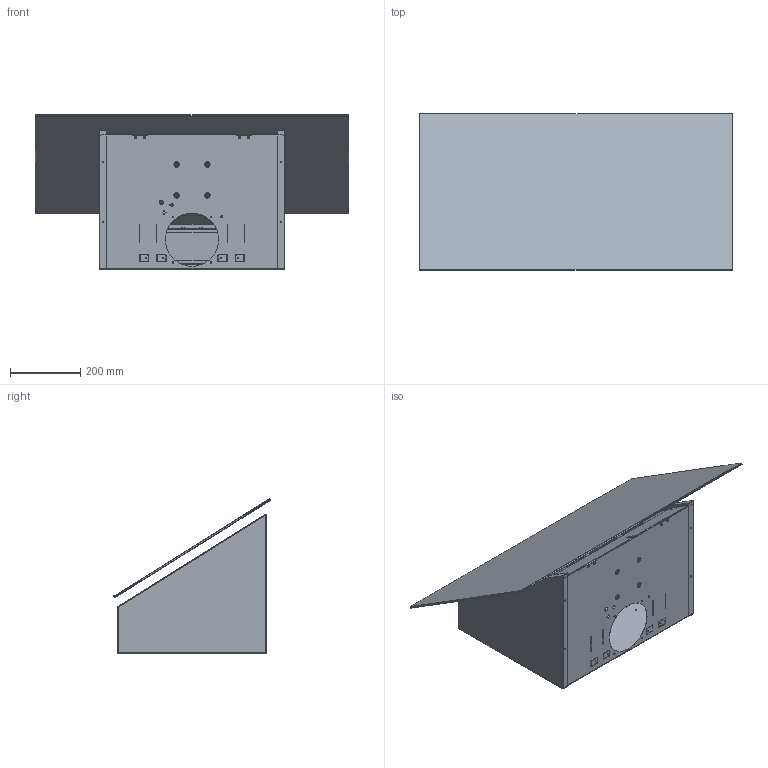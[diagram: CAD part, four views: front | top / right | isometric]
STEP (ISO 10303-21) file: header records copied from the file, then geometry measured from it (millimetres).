
FILE_DESCRIPTION (( 'STEP AP214' ), '1' );
FILE_NAME ('KV394N-3971486.STEP', '2025-10-15T13:48:17', ( '' ), ( '' ), 'SwSTEP 2.0', 'SolidWorks 2025', '' );
FILE_SCHEMA (( 'AUTOMOTIVE_DESIGN' ));
Length unit declared in the file: millimetre
Products named in the file (12): 2638374B-KV28N- TOP; 2638399A-KV28-GR.CARPENTERIA; 1720586 - VETRO - KV394N - 90 BLACK; 2638422A; KV394N-3971486; 2638376-S042955-KV28N- FIANCO_DX_SX - Supporto; 2638375-S042954-KV28N- BOTTOM; 2610232_filtro; 2638377-S042956-KV28N- FIANCO_SX_SX - Supporto; 1800039-S042962-Guidaluce Faretto Mini Velo; 1600021_Tirato; 1800038-Faretto Mini Velo
Assembly tree (13 placements, depth 3):
  KV394N-3971486
    2638399A-KV28-GR.CARPENTERIA
      2638374B-KV28N- TOP
      2638377-S042956-KV28N- FIANCO_SX_SX - Supporto
      2638376-S042955-KV28N- FIANCO_DX_SX - Supporto
      1600021_Tirato
    2638375-S042954-KV28N- BOTTOM
    1800038-Faretto Mini Velo  x2
    1800039-S042962-Guidaluce Faretto Mini Velo  x2
    2638422A
      1720586 - VETRO - KV394N - 90 BLACK
    2610232_filtro
Bounding box: 895 x 446.81 x 439.62 mm (x, y, z)
Volume: 3374611.3 mm3; surface area: 3926887.1 mm2
Topology: 31 solids, 31 shells, 2984 faces, 7797 edges, 4954 vertices
Faces by surface type: plane 1349, cylinder 1327, torus 116, bspline 90, sphere 62, cone 40
Entity records: 74928 total; most frequent: CARTESIAN_POINT 16858, DIRECTION 12149, ORIENTED_EDGE 11946, EDGE_CURVE 5973, AXIS2_PLACEMENT_3D 4234, VERTEX_POINT 3800, LINE 3681, VECTOR 3681
